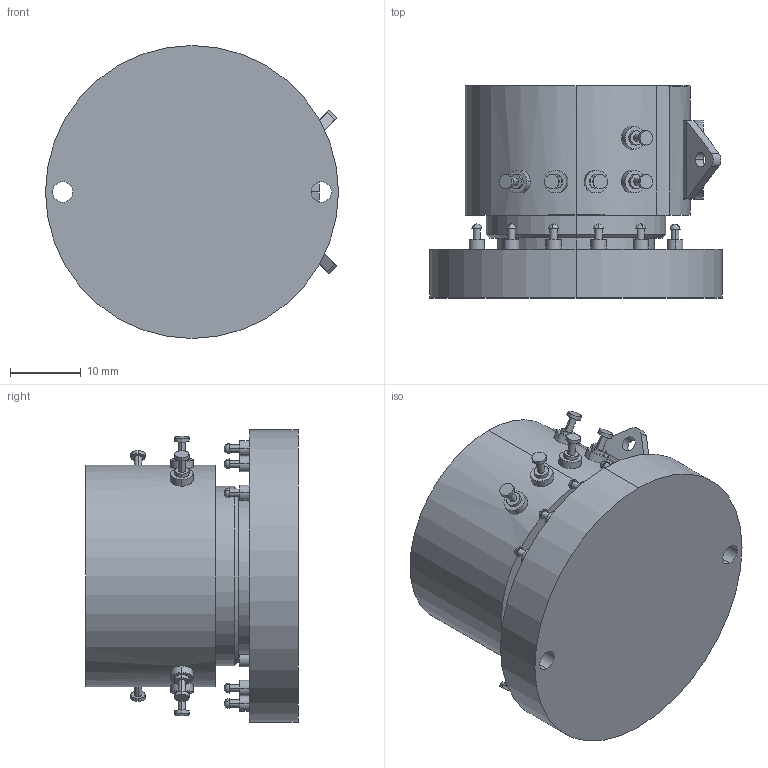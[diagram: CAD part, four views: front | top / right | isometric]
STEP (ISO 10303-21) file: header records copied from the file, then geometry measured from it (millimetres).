
FILE_DESCRIPTION (( 'STEP AP203' ), '1' );
FILE_NAME ('1007834.STEP', '2017-06-05T16:08:57', ( '' ), ( '' ), 'SwSTEP 2.0', 'SolidWorks 2014', '' );
FILE_SCHEMA (( 'CONFIG_CONTROL_DESIGN' ));
Length unit declared in the file: inch
Products named in the file (1): 1007834
Bounding box: 41.26 x 29.88 x 41.26 mm (x, y, z)
Volume: 25885.2 mm3; surface area: 7511.6 mm2
Topology: 1 solids, 3 shells, 755 faces, 1907 edges, 1239 vertices
Faces by surface type: plane 399, bspline 191, cylinder 158, cone 7
Entity records: 32154 total; most frequent: CARTESIAN_POINT 15099, ORIENTED_EDGE 3726, DIRECTION 2959, EDGE_CURVE 1863, VERTEX_POINT 1239, LINE 1153, VECTOR 1153, AXIS2_PLACEMENT_3D 903
